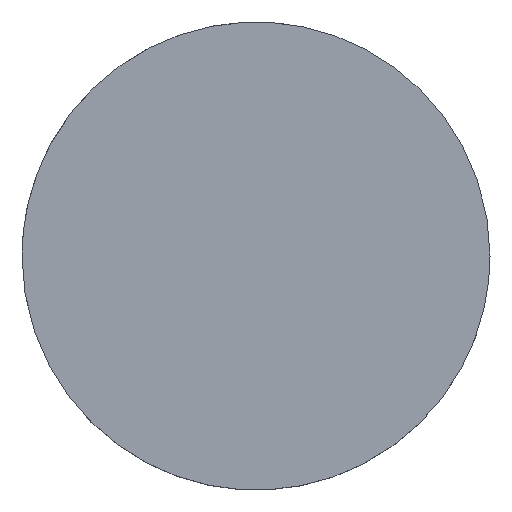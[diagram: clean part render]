
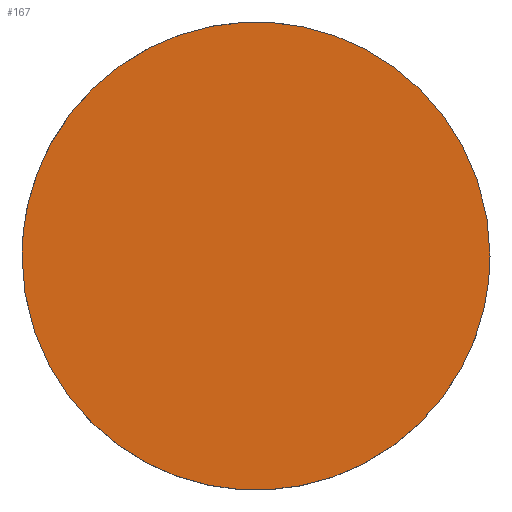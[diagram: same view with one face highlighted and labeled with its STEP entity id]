
A CAD part, top view. The second image highlights one B-rep face of the part: STEP entity #167.
In plain terms, the highlighted planar face has unit normal (0, 0, 1).
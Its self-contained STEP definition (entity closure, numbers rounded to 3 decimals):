
#19 = CARTESIAN_POINT ('', (-12.5, 0., -96.277));
#20 = VERTEX_POINT ('', #19);
#26 = CARTESIAN_POINT ('', (12.5, 0., -96.277));
#27 = VERTEX_POINT ('', #26);
#28 = CARTESIAN_POINT ('', (12.5, 0., -96.277));
#29 = CARTESIAN_POINT ('', (12.5, 12.5, -96.277));
#30 = CARTESIAN_POINT ('', (0., 12.5, -96.277));
#31 = CARTESIAN_POINT ('', (-12.5, 12.5, -96.277));
#32 = CARTESIAN_POINT ('', (-12.5, 0., -96.277));
#33 = (
   BOUNDED_CURVE ()
   B_SPLINE_CURVE (2, (#28, #29, #30, #31, #32), .UNSPECIFIED., .F., .U.)
   B_SPLINE_CURVE_WITH_KNOTS ((3, 2, 3), (0., 1.571, 3.142), .UNSPECIFIED.)
   CURVE ()
   GEOMETRIC_REPRESENTATION_ITEM ()
   RATIONAL_B_SPLINE_CURVE ((1., 0.707, 1., 0.707, 1.))
   REPRESENTATION_ITEM ('')
);
#34 = EDGE_CURVE ('', #27, #20, #33, .T.);
#58 = CARTESIAN_POINT ('', (-12.5, 0., -96.277));
#59 = CARTESIAN_POINT ('', (-12.5, -12.5, -96.277));
#60 = CARTESIAN_POINT ('', (0., -12.5, -96.277));
#61 = CARTESIAN_POINT ('', (12.5, -12.5, -96.277));
#62 = CARTESIAN_POINT ('', (12.5, 0., -96.277));
#63 = (
   BOUNDED_CURVE ()
   B_SPLINE_CURVE (2, (#58, #59, #60, #61, #62), .UNSPECIFIED., .F., .U.)
   B_SPLINE_CURVE_WITH_KNOTS ((3, 2, 3), (3.142, 4.712, 6.283), .UNSPECIFIED.)
   CURVE ()
   GEOMETRIC_REPRESENTATION_ITEM ()
   RATIONAL_B_SPLINE_CURVE ((1., 0.707, 1., 0.707, 1.))
   REPRESENTATION_ITEM ('')
);
#64 = EDGE_CURVE ('', #20, #27, #63, .T.);
#158 = ORIENTED_EDGE ('', *, *, #34, .T.);
#159 = ORIENTED_EDGE ('', *, *, #64, .T.);
#160 = EDGE_LOOP ('', (#158, #159));
#161 = FACE_OUTER_BOUND ('', #160, .T.);
#162 = CARTESIAN_POINT ('', (0., 25.704, -96.277));
#163 = DIRECTION ('', (0., 0., 1.));
#164 = DIRECTION ('', (-0.707, -0.707, 0.));
#165 = AXIS2_PLACEMENT_3D ('', #162, #163, #164);
#166 = PLANE ('', #165);
#167 = ADVANCED_FACE ('', (#161), #166, .T.);
